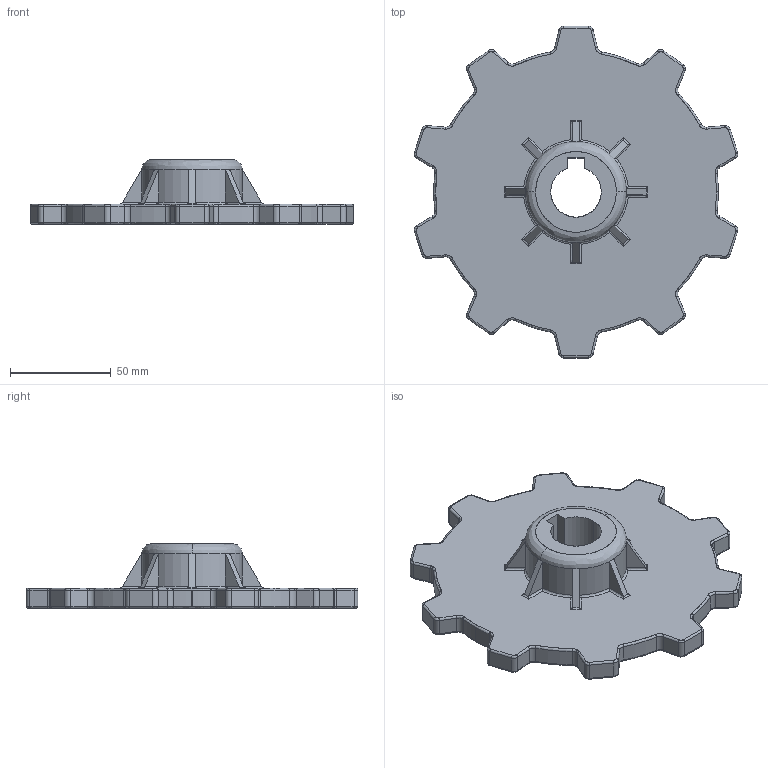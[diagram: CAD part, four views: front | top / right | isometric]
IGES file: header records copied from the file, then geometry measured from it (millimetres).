
Start section: SolidWorks IGES file using analytic representation for surfaces
Global section: file name: C:\Documents and Settings\URETIM3\Desktop\yeni katalog tolgay\338 T25 010.IGS; native system: SolidWorks 2006 by SolidWorks Corporation; preprocessor: SolidWorks 2006 by SolidWorks Corporation; author: URETIM3; date: 061103.144434; units: millimetre
Bounding box: 160.36 x 164.44 x 32 mm (x, y, z)
Surface area: 47336.6 mm2 (no closed solid volume)
Topology: 0 solids, 0 shells, 345 faces, 2431 edges, 2426 vertices
Faces by surface type: bspline 191, revolution 154
